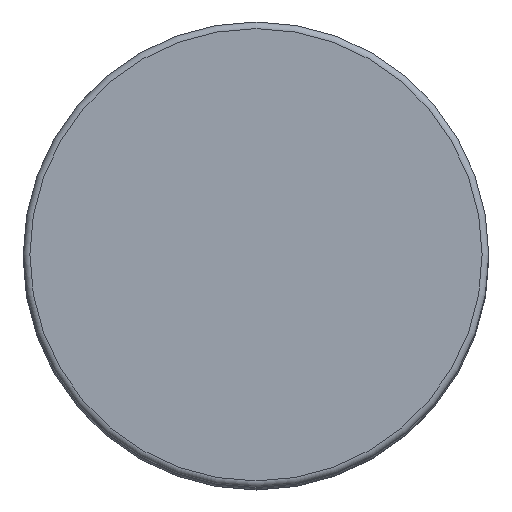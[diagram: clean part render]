
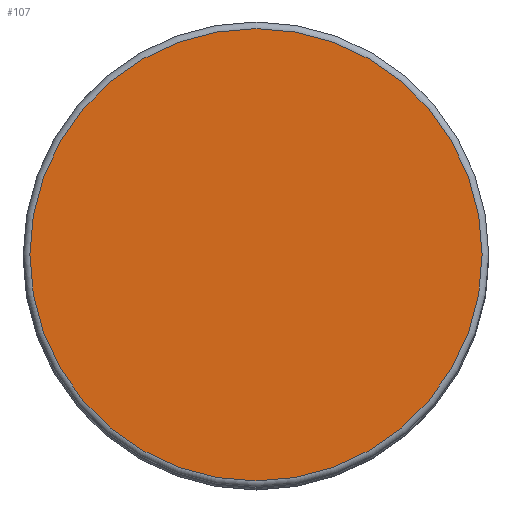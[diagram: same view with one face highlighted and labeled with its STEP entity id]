
A CAD part, top view. The second image highlights one B-rep face of the part: STEP entity #107.
In plain terms, the highlighted planar face has unit normal (0, 0, 1).
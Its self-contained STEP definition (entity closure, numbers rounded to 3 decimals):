
#107=ADVANCED_FACE('',(#1331),#1333,.T.);
#1331=FACE_BOUND('',#1332,.T.);
#1332=EDGE_LOOP('',(#2773));
#1333=PLANE('',#1334);
#1334=AXIS2_PLACEMENT_3D('',#1335,#1336,#1337);
#1335=CARTESIAN_POINT('',(0.,0.,195.));
#1336=DIRECTION('',(0.,0.,1.));
#1337=DIRECTION('',(-1.,0.,0.));
#2773=ORIENTED_EDGE('',*,*,#3454,.F.);
#3454=EDGE_CURVE('',#3807,#3807,#3808,.T.);
#3807=VERTEX_POINT('',#4591);
#3808=CIRCLE('',#4592,33.975);
#4591=CARTESIAN_POINT('',(-33.975,0.,195.));
#4592=AXIS2_PLACEMENT_3D('',#4593,#4594,#4595);
#4593=CARTESIAN_POINT('',(0.,0.,195.));
#4594=DIRECTION('',(0.,0.,-1.));
#4595=DIRECTION('',(-1.,0.,0.));
